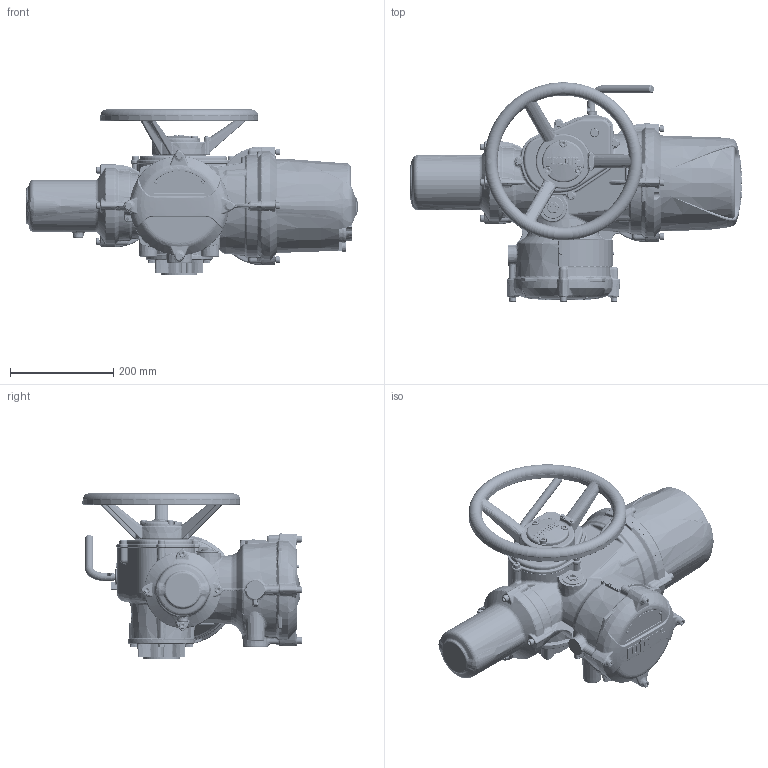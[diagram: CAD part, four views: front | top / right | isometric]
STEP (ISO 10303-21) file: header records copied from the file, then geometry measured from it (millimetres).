
FILE_DESCRIPTION(/* description */ ('Unknown'),/* implementation_level */ '2;1');
FILE_NAME(/* name */ 'IQ10_THW_SHORT-ECVR_AZ.par',/* time_stamp */ '2016-02-29T11:30:41+00:00',/* author */ ('Unknown'),/* organization */ ('Unknown'),/* preprocessor_version */ 'ST-DEVELOPER v16',/* originating_system */ 'DEX',/* authorisation */ $);
FILE_SCHEMA (('AUTOMOTIVE_DESIGN {1 0 10303 214 3 1 1}'));
Length unit declared in the file: millimetre
Products named in the file (8): IQ10_THW_SHORT-ECVR_AZ.par; II1-01-std; II1-04THW-std; II1-02AZ_F10-std; II0-20SHORT-std; II0-55-std; II1-04CAP-std; II1-05-std
Assembly tree (7 placements, depth 2):
  IQ10_THW_SHORT-ECVR_AZ.par
    II1-01-std
    II1-04THW-std
    II1-02AZ_F10-std
    II0-20SHORT-std
    II0-55-std
    II1-04CAP-std
    II1-05-std
Bounding box: 641.76 x 423.78 x 319.02 mm (x, y, z)
Volume: 13784482.6 mm3; surface area: 1067615.6 mm2
Topology: 27 solids, 37 shells, 5335 faces, 13160 edges, 7795 vertices
Faces by surface type: bspline 2053, plane 1331, cylinder 758, torus 574, cone 540, sphere 79
Full cylindrical faces by diameter (mm): 1.152 x1, 3 x12, 3.12 x2, 3.14 x2, 3.3 x2, 4 x2, 4.917 x1, 6 x7, 6.45 x9, 6.47 x9, 6.5 x1, 6.647 x2, 7 x6, 7.6 x4, 8 x23, 8.1 x1, 8.2 x1, 8.376 x8, 8.5 x8, 10 x1, 11.78 x1, 13 x20, 13.25 x4, 15.5 x1, 16 x4, 16.186 x1, 24.78 x1, 43 x1, 49.98 x2, 50.4 x1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
Entity records: 294628 total; most frequent: CARTESIAN_POINT 152823, ORIENTED_EDGE 24592, DIRECTION 18218, EDGE_CURVE 12296, AXIS2_PLACEMENT_3D 7836, VERTEX_POINT 7561, FACE_BOUND 5941, EDGE_LOOP 5912
